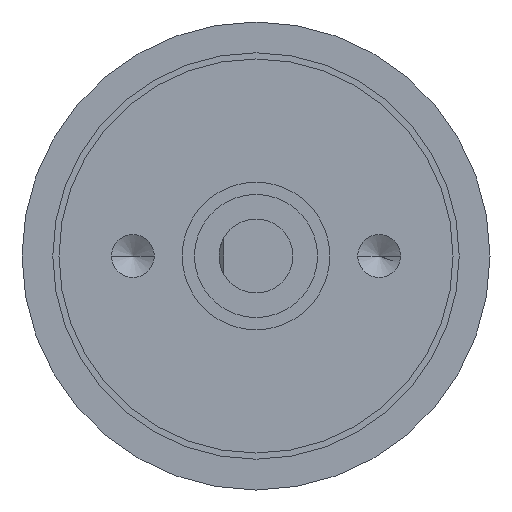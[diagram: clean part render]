
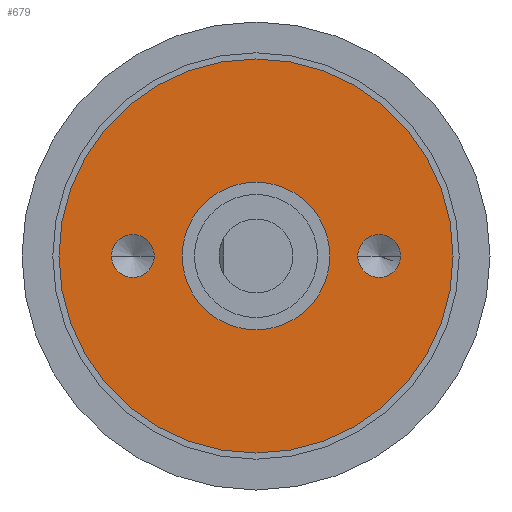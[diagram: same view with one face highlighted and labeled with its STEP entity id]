
A CAD part, left-side view. The second image highlights one B-rep face of the part: STEP entity #679.
In plain terms, the highlighted planar face has unit normal (-1, 0, 0).
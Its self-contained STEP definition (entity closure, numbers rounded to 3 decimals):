
#169=CARTESIAN_POINT('',(-25.,0.,0.));
#170=DIRECTION('',(1.,0.,0.));
#171=DIRECTION('',(0.,1.,0.));
#172=AXIS2_PLACEMENT_3D('',#169,#170,#171);
#174=CARTESIAN_POINT('',(-25.,0.,0.));
#175=DIRECTION('',(-1.,0.,0.));
#176=DIRECTION('',(0.,1.,0.));
#177=AXIS2_PLACEMENT_3D('',#174,#175,#176);
#179=CARTESIAN_POINT('',(-25.,5.,0.));
#180=DIRECTION('',(1.,0.,0.));
#181=DIRECTION('',(0.,-1.,0.));
#182=AXIS2_PLACEMENT_3D('',#179,#180,#181);
#184=CARTESIAN_POINT('',(-25.,5.,0.));
#185=DIRECTION('',(1.,0.,0.));
#186=DIRECTION('',(0.,1.,0.));
#187=AXIS2_PLACEMENT_3D('',#184,#185,#186);
#189=CARTESIAN_POINT('',(-25.,-5.,0.));
#190=DIRECTION('',(1.,0.,0.));
#191=DIRECTION('',(0.,1.,0.));
#192=AXIS2_PLACEMENT_3D('',#189,#190,#191);
#194=CARTESIAN_POINT('',(-25.,-5.,0.));
#195=DIRECTION('',(1.,0.,0.));
#196=DIRECTION('',(0.,-1.,0.));
#197=AXIS2_PLACEMENT_3D('',#194,#195,#196);
#199=CARTESIAN_POINT('',(-25.,0.,0.));
#200=DIRECTION('',(-1.,0.,0.));
#201=DIRECTION('',(0.,1.,0.));
#202=AXIS2_PLACEMENT_3D('',#199,#200,#201);
#208=CARTESIAN_POINT('',(-25.,0.,0.));
#209=DIRECTION('',(1.,0.,0.));
#210=DIRECTION('',(0.,1.,0.));
#211=AXIS2_PLACEMENT_3D('',#208,#209,#210);
#407=CARTESIAN_POINT('',(-25.,3.,0.));
#409=VERTEX_POINT('',#407);
#415=CARTESIAN_POINT('',(-25.,-3.,0.));
#417=VERTEX_POINT('',#415);
#444=CARTESIAN_POINT('',(-25.,4.13,0.));
#445=VERTEX_POINT('',#444);
#446=CARTESIAN_POINT('',(-25.,5.87,0.));
#447=VERTEX_POINT('',#446);
#452=CARTESIAN_POINT('',(-25.,8.,0.));
#453=CARTESIAN_POINT('',(-25.,-8.,0.));
#454=VERTEX_POINT('',#452);
#455=VERTEX_POINT('',#453);
#462=CARTESIAN_POINT('',(-25.,-4.13,0.));
#463=VERTEX_POINT('',#462);
#464=CARTESIAN_POINT('',(-25.,-5.87,0.));
#465=VERTEX_POINT('',#464);
#652=CARTESIAN_POINT('',(-25.,0.,0.));
#653=DIRECTION('',(-1.,0.,0.));
#654=DIRECTION('',(0.,1.,0.));
#655=AXIS2_PLACEMENT_3D('',#652,#653,#654);
#656=PLANE('',#655);
#657=ORIENTED_EDGE('',*,*,#647,.T.);
#658=ORIENTED_EDGE('',*,*,#630,.F.);
#659=EDGE_LOOP('',(#657,#658));
#660=FACE_OUTER_BOUND('',#659,.F.);
#662=ORIENTED_EDGE('',*,*,#661,.T.);
#664=ORIENTED_EDGE('',*,*,#663,.F.);
#665=EDGE_LOOP('',(#662,#664));
#666=FACE_BOUND('',#665,.F.);
#668=ORIENTED_EDGE('',*,*,#667,.F.);
#670=ORIENTED_EDGE('',*,*,#669,.F.);
#671=EDGE_LOOP('',(#668,#670));
#672=FACE_BOUND('',#671,.F.);
#674=ORIENTED_EDGE('',*,*,#673,.F.);
#676=ORIENTED_EDGE('',*,*,#675,.F.);
#677=EDGE_LOOP('',(#674,#676));
#678=FACE_BOUND('',#677,.F.);
#679=ADVANCED_FACE('',(#660,#666,#672,#678),#656,.T.);
#173=CIRCLE('',#172,8.);
#178=CIRCLE('',#177,8.);
#183=CIRCLE('',#182,0.87);
#188=CIRCLE('',#187,0.87);
#193=CIRCLE('',#192,0.87);
#198=CIRCLE('',#197,0.87);
#203=CIRCLE('',#202,3.);
#212=CIRCLE('',#211,3.);
#630=EDGE_CURVE('',#454,#455,#178,.T.);
#647=EDGE_CURVE('',#454,#455,#173,.T.);
#661=EDGE_CURVE('',#409,#417,#203,.T.);
#663=EDGE_CURVE('',#409,#417,#212,.T.);
#667=EDGE_CURVE('',#445,#447,#183,.T.);
#669=EDGE_CURVE('',#447,#445,#188,.T.);
#673=EDGE_CURVE('',#463,#465,#193,.T.);
#675=EDGE_CURVE('',#465,#463,#198,.T.);
